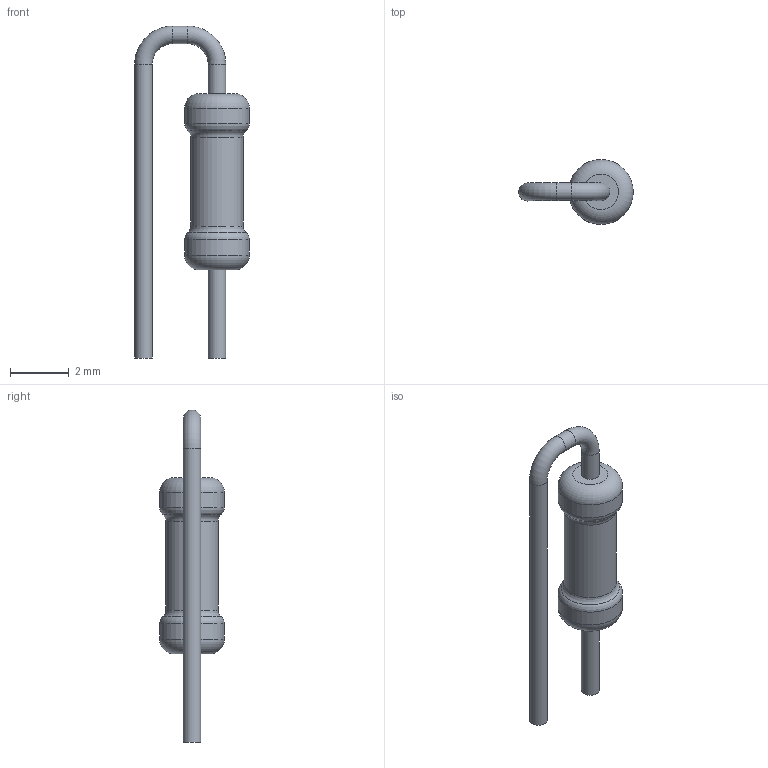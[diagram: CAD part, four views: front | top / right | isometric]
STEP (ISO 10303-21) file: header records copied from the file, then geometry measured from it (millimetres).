
FILE_DESCRIPTION(('STEP AP203'), '1');
FILE_NAME('栖闉罻', '', ('UNSPECIFIED'), ('UNSPECIFIED'), 'ASCON STEP Converter 1.6', 'ASCON Math Kernel', '');
FILE_SCHEMA(('CONFIG_CONTROL_DESIGN'));
Length unit declared in the file: millimetre
Assembly tree (1 placements, depth 2):
  (unnamed)
    (unnamed)
Bounding box: 3.9 x 2.2 x 11.3 mm (x, y, z)
Volume: 22.5 mm3; surface area: 75.3 mm2
Topology: 1 solids, 1 shells, 19 faces, 33 edges, 18 vertices
Faces by surface type: torus 8, cylinder 7, plane 4
Full cylindrical faces by diameter (mm): 0.6 x4, 1.776 x1, 2.2 x2
Entity records: 620 total; most frequent: DIRECTION 78, CARTESIAN_POINT 57, AXIS2_PLACEMENT_3D 39, EDGE_LOOP 36, ORIENTED_EDGE 36, FACE_OUTER_BOUND 30, COLOUR_RGB 20, FILL_AREA_STYLE_COLOUR 20
